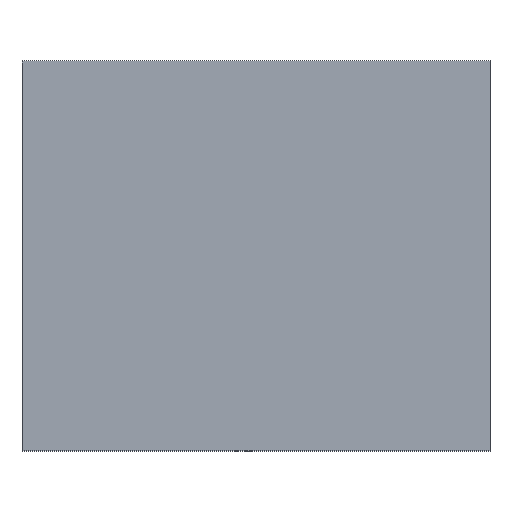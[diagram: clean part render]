
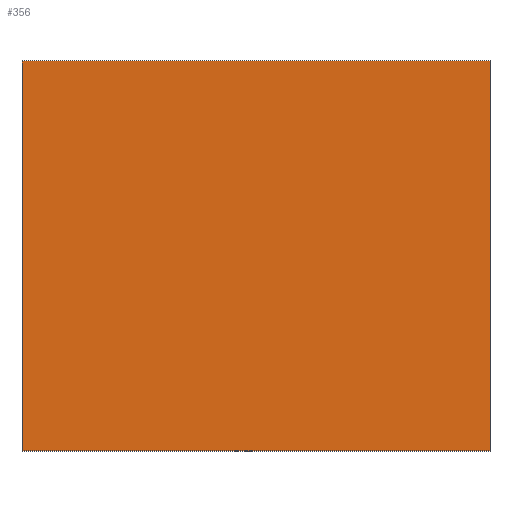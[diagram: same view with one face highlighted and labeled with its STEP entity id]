
A CAD part, top view. The second image highlights one B-rep face of the part: STEP entity #356.
In plain terms, the highlighted planar face has unit normal (0, 0, 1).
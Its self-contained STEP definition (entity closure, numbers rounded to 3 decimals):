
#42 = VERTEX_POINT('',#43);
#43 = CARTESIAN_POINT('',(60.,-50.,1.58));
#50 = PLANE('',#51);
#51 = AXIS2_PLACEMENT_3D('',#52,#53,#54);
#52 = CARTESIAN_POINT('',(60.,-50.,0.));
#53 = DIRECTION('',(0.,-1.,0.));
#54 = DIRECTION('',(-1.,0.,0.));
#62 = PLANE('',#63);
#63 = AXIS2_PLACEMENT_3D('',#64,#65,#66);
#64 = CARTESIAN_POINT('',(60.,50.,0.));
#65 = DIRECTION('',(1.,0.,-0.));
#66 = DIRECTION('',(0.,-1.,0.));
#74 = EDGE_CURVE('',#42,#75,#77,.T.);
#75 = VERTEX_POINT('',#76);
#76 = CARTESIAN_POINT('',(-60.,-50.,1.58));
#77 = SURFACE_CURVE('',#78,(#82,#89),.PCURVE_S1.);
#78 = LINE('',#79,#80);
#79 = CARTESIAN_POINT('',(60.,-50.,1.58));
#80 = VECTOR('',#81,1.);
#81 = DIRECTION('',(-1.,0.,0.));
#82 = PCURVE('',#50,#83);
#83 = DEFINITIONAL_REPRESENTATION('',(#84),#88);
#84 = LINE('',#85,#86);
#85 = CARTESIAN_POINT('',(0.,-1.58));
#86 = VECTOR('',#87,1.);
#87 = DIRECTION('',(1.,0.));
#88 = ( GEOMETRIC_REPRESENTATION_CONTEXT(2) 
PARAMETRIC_REPRESENTATION_CONTEXT() REPRESENTATION_CONTEXT('2D SPACE',''
  ) );
#89 = PCURVE('',#90,#95);
#90 = PLANE('',#91);
#91 = AXIS2_PLACEMENT_3D('',#92,#93,#94);
#92 = CARTESIAN_POINT('',(0.,0.,1.58));
#93 = DIRECTION('',(-0.,-0.,-1.));
#94 = DIRECTION('',(-1.,0.,0.));
#95 = DEFINITIONAL_REPRESENTATION('',(#96),#100);
#96 = LINE('',#97,#98);
#97 = CARTESIAN_POINT('',(-60.,-50.));
#98 = VECTOR('',#99,1.);
#99 = DIRECTION('',(1.,0.));
#100 = ( GEOMETRIC_REPRESENTATION_CONTEXT(2) 
PARAMETRIC_REPRESENTATION_CONTEXT() REPRESENTATION_CONTEXT('2D SPACE',''
  ) );
#118 = PLANE('',#119);
#119 = AXIS2_PLACEMENT_3D('',#120,#121,#122);
#120 = CARTESIAN_POINT('',(-60.,-50.,0.));
#121 = DIRECTION('',(-1.,0.,0.));
#122 = DIRECTION('',(0.,1.,0.));
#160 = EDGE_CURVE('',#75,#161,#163,.T.);
#161 = VERTEX_POINT('',#162);
#162 = CARTESIAN_POINT('',(-60.,50.,1.58));
#163 = SURFACE_CURVE('',#164,(#168,#175),.PCURVE_S1.);
#164 = LINE('',#165,#166);
#165 = CARTESIAN_POINT('',(-60.,-50.,1.58));
#166 = VECTOR('',#167,1.);
#167 = DIRECTION('',(0.,1.,0.));
#168 = PCURVE('',#118,#169);
#169 = DEFINITIONAL_REPRESENTATION('',(#170),#174);
#170 = LINE('',#171,#172);
#171 = CARTESIAN_POINT('',(0.,-1.58));
#172 = VECTOR('',#173,1.);
#173 = DIRECTION('',(1.,0.));
#174 = ( GEOMETRIC_REPRESENTATION_CONTEXT(2) 
PARAMETRIC_REPRESENTATION_CONTEXT() REPRESENTATION_CONTEXT('2D SPACE',''
  ) );
#175 = PCURVE('',#90,#176);
#176 = DEFINITIONAL_REPRESENTATION('',(#177),#181);
#177 = LINE('',#178,#179);
#178 = CARTESIAN_POINT('',(60.,-50.));
#179 = VECTOR('',#180,1.);
#180 = DIRECTION('',(0.,1.));
#181 = ( GEOMETRIC_REPRESENTATION_CONTEXT(2) 
PARAMETRIC_REPRESENTATION_CONTEXT() REPRESENTATION_CONTEXT('2D SPACE',''
  ) );
#199 = PLANE('',#200);
#200 = AXIS2_PLACEMENT_3D('',#201,#202,#203);
#201 = CARTESIAN_POINT('',(-60.,50.,0.));
#202 = DIRECTION('',(0.,1.,0.));
#203 = DIRECTION('',(1.,0.,0.));
#236 = EDGE_CURVE('',#161,#237,#239,.T.);
#237 = VERTEX_POINT('',#238);
#238 = CARTESIAN_POINT('',(60.,50.,1.58));
#239 = SURFACE_CURVE('',#240,(#244,#251),.PCURVE_S1.);
#240 = LINE('',#241,#242);
#241 = CARTESIAN_POINT('',(-60.,50.,1.58));
#242 = VECTOR('',#243,1.);
#243 = DIRECTION('',(1.,0.,0.));
#244 = PCURVE('',#199,#245);
#245 = DEFINITIONAL_REPRESENTATION('',(#246),#250);
#246 = LINE('',#247,#248);
#247 = CARTESIAN_POINT('',(0.,-1.58));
#248 = VECTOR('',#249,1.);
#249 = DIRECTION('',(1.,0.));
#250 = ( GEOMETRIC_REPRESENTATION_CONTEXT(2) 
PARAMETRIC_REPRESENTATION_CONTEXT() REPRESENTATION_CONTEXT('2D SPACE',''
  ) );
#251 = PCURVE('',#90,#252);
#252 = DEFINITIONAL_REPRESENTATION('',(#253),#257);
#253 = LINE('',#254,#255);
#254 = CARTESIAN_POINT('',(60.,50.));
#255 = VECTOR('',#256,1.);
#256 = DIRECTION('',(-1.,0.));
#257 = ( GEOMETRIC_REPRESENTATION_CONTEXT(2) 
PARAMETRIC_REPRESENTATION_CONTEXT() REPRESENTATION_CONTEXT('2D SPACE',''
  ) );
#307 = EDGE_CURVE('',#237,#42,#308,.T.);
#308 = SURFACE_CURVE('',#309,(#313,#320),.PCURVE_S1.);
#309 = LINE('',#310,#311);
#310 = CARTESIAN_POINT('',(60.,50.,1.58));
#311 = VECTOR('',#312,1.);
#312 = DIRECTION('',(0.,-1.,0.));
#313 = PCURVE('',#62,#314);
#314 = DEFINITIONAL_REPRESENTATION('',(#315),#319);
#315 = LINE('',#316,#317);
#316 = CARTESIAN_POINT('',(0.,-1.58));
#317 = VECTOR('',#318,1.);
#318 = DIRECTION('',(1.,0.));
#319 = ( GEOMETRIC_REPRESENTATION_CONTEXT(2) 
PARAMETRIC_REPRESENTATION_CONTEXT() REPRESENTATION_CONTEXT('2D SPACE',''
  ) );
#320 = PCURVE('',#90,#321);
#321 = DEFINITIONAL_REPRESENTATION('',(#322),#326);
#322 = LINE('',#323,#324);
#323 = CARTESIAN_POINT('',(-60.,50.));
#324 = VECTOR('',#325,1.);
#325 = DIRECTION('',(0.,-1.));
#326 = ( GEOMETRIC_REPRESENTATION_CONTEXT(2) 
PARAMETRIC_REPRESENTATION_CONTEXT() REPRESENTATION_CONTEXT('2D SPACE',''
  ) );
#356 = ADVANCED_FACE('',(#357),#90,.F.);
#357 = FACE_BOUND('',#358,.F.);
#358 = EDGE_LOOP('',(#359,#360,#361,#362));
#359 = ORIENTED_EDGE('',*,*,#74,.T.);
#360 = ORIENTED_EDGE('',*,*,#160,.T.);
#361 = ORIENTED_EDGE('',*,*,#236,.T.);
#362 = ORIENTED_EDGE('',*,*,#307,.T.);
